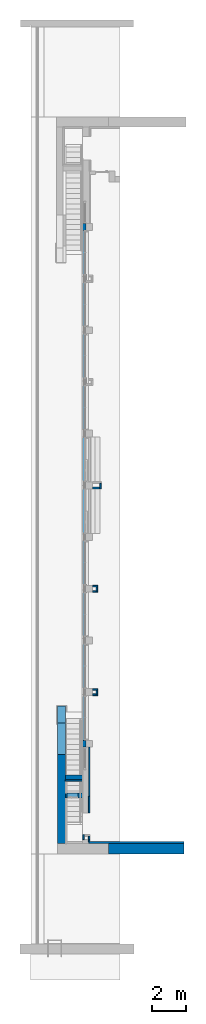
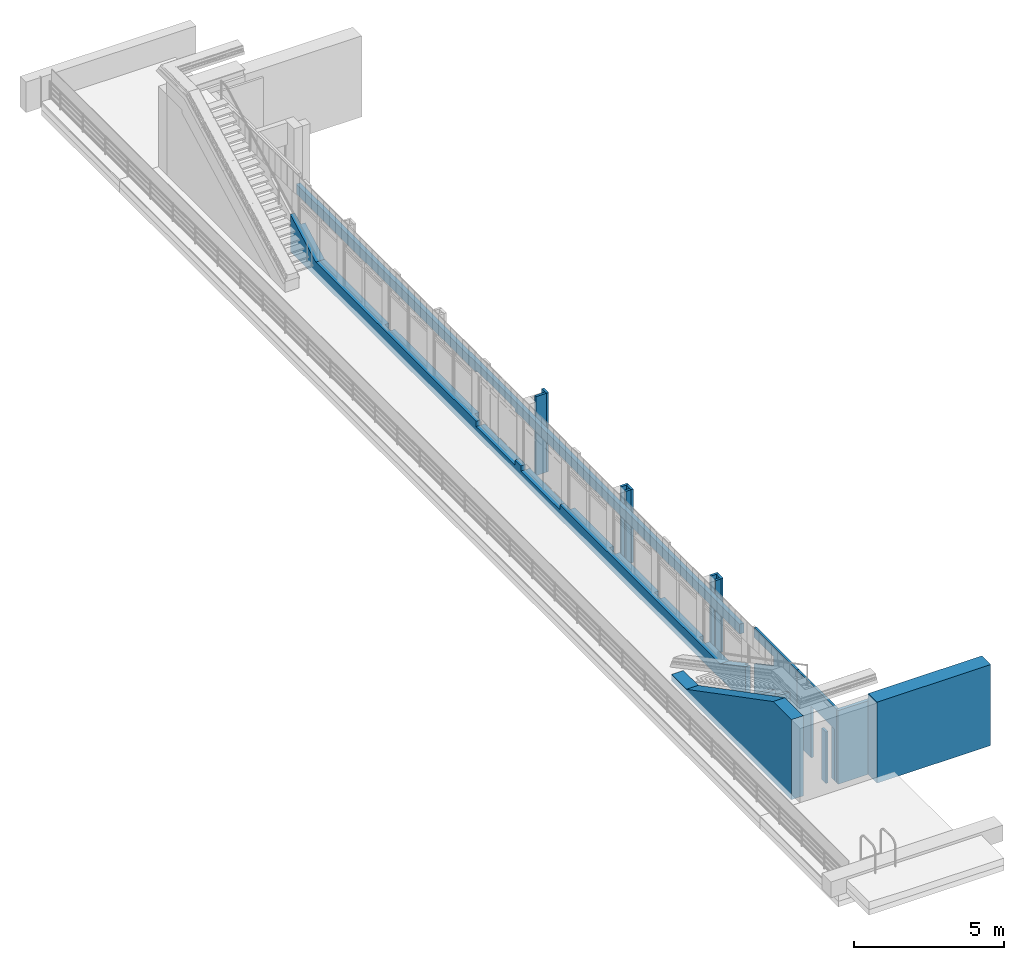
# One storey, part 7 of 16: 20 walls, 9 openings.
"""IFC2X3 building model written with IfcOpenShell, lengths in millimetres."""

from ifc_helpers import new_model, entity, si_unit, converted_unit, derived_unit, direction, frame, frame_2d, origin, place, context, subcontext, project, spatial, polyline, rectangle, outline, extrude, clip, halfspace, bounded_halfspace, material, layer, layer_set, layer_usage, type_object, element, save


model = new_model("IFC2X3")

# Units and contexts
model_context = context("Model", 3, precision=0.01, world=origin(), true_north=direction((6.123031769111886e-17, 1.0)))
body_context = subcontext(model_context, "Body", "Model", "MODEL_VIEW")
ifc_project = project(units=[si_unit("LENGTHUNIT", "METRE", prefix="MILLI"), si_unit("AREAUNIT", "SQUARE_METRE"), si_unit("VOLUMEUNIT", "CUBIC_METRE"), converted_unit("PLANEANGLEUNIT", "DEGREE", entity("IfcPlaneAngleMeasure", 0.017453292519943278), si_unit("PLANEANGLEUNIT", "RADIAN"), dimensions=[0, 0, 0, 0, 0, 0, 0]), si_unit("MASSUNIT", "GRAM", prefix="KILO"), derived_unit("MASSDENSITYUNIT", [(si_unit("MASSUNIT", "GRAM", prefix="KILO"), 1), (si_unit("LENGTHUNIT", "METRE"), -3)]), derived_unit("IONCONCENTRATIONUNIT", [(si_unit("MASSUNIT", "GRAM", prefix="KILO"), 1), (si_unit("LENGTHUNIT", "METRE"), -3)]), derived_unit("MOMENTOFINERTIAUNIT", [(si_unit("LENGTHUNIT", "METRE"), 4)]), si_unit("TIMEUNIT", "SECOND"), si_unit("FREQUENCYUNIT", "HERTZ"), si_unit("THERMODYNAMICTEMPERATUREUNIT", "DEGREE_CELSIUS"), derived_unit("THERMALTRANSMITTANCEUNIT", [(si_unit("MASSUNIT", "GRAM", prefix="KILO"), 1), (si_unit("THERMODYNAMICTEMPERATUREUNIT", "KELVIN"), -1), (si_unit("TIMEUNIT", "SECOND"), -3)]), derived_unit("THERMALCONDUCTANCEUNIT", [(si_unit("MASSUNIT", "GRAM", prefix="KILO"), 1), (si_unit("THERMODYNAMICTEMPERATUREUNIT", "KELVIN"), -1), (si_unit("TIMEUNIT", "SECOND"), -3), (si_unit("LENGTHUNIT", "METRE"), 1)]), derived_unit("VOLUMETRICFLOWRATEUNIT", [(si_unit("LENGTHUNIT", "METRE", prefix="DECI"), 3), (si_unit("TIMEUNIT", "SECOND"), -1)]), derived_unit("MASSFLOWRATEUNIT", [(si_unit("MASSUNIT", "GRAM", prefix="KILO"), 1), (si_unit("TIMEUNIT", "SECOND"), -1)]), derived_unit("ROTATIONALFREQUENCYUNIT", [(si_unit("TIMEUNIT", "SECOND"), -1)]), si_unit("ELECTRICCURRENTUNIT", "AMPERE"), si_unit("ELECTRICVOLTAGEUNIT", "VOLT"), si_unit("POWERUNIT", "WATT"), si_unit("FORCEUNIT", "NEWTON", prefix="KILO"), si_unit("ILLUMINANCEUNIT", "LUX"), si_unit("LUMINOUSFLUXUNIT", "LUMEN"), si_unit("LUMINOUSINTENSITYUNIT", "CANDELA"), si_unit("ENERGYUNIT", "JOULE"), derived_unit("USERDEFINED", [(si_unit("MASSUNIT", "GRAM", prefix="KILO"), -1), (si_unit("LENGTHUNIT", "METRE"), -2), (si_unit("TIMEUNIT", "SECOND"), 3), (si_unit("LUMINOUSFLUXUNIT", "LUMEN"), 1)]), derived_unit("USERDEFINED", [(si_unit("MASSUNIT", "GRAM", prefix="KILO"), 1), (si_unit("TIMEUNIT", "SECOND"), -3), (si_unit("LENGTHUNIT", "METRE"), 3), (si_unit("ELECTRICCURRENTUNIT", "AMPERE"), -2)]), derived_unit("SOUNDPOWERUNIT", [(si_unit("MASSUNIT", "GRAM", prefix="KILO"), 1), (si_unit("TIMEUNIT", "SECOND"), -3), (si_unit("LENGTHUNIT", "METRE"), 2)]), derived_unit("SOUNDPRESSUREUNIT", [(si_unit("MASSUNIT", "GRAM", prefix="KILO"), 1), (si_unit("LENGTHUNIT", "METRE"), -1), (si_unit("TIMEUNIT", "SECOND"), -2)]), derived_unit("LINEARVELOCITYUNIT", [(si_unit("LENGTHUNIT", "METRE"), 1), (si_unit("TIMEUNIT", "SECOND"), -1)]), si_unit("PRESSUREUNIT", "PASCAL"), derived_unit("USERDEFINED", [(si_unit("MASSUNIT", "GRAM", prefix="KILO"), 1), (si_unit("LENGTHUNIT", "METRE"), -2), (si_unit("TIMEUNIT", "SECOND"), -2)]), derived_unit("LINEARFORCEUNIT", [(si_unit("MASSUNIT", "GRAM", prefix="KILO"), 1), (si_unit("TIMEUNIT", "SECOND"), -2)]), derived_unit("PLANARFORCEUNIT", [(si_unit("MASSUNIT", "GRAM", prefix="KILO"), 1), (si_unit("LENGTHUNIT", "METRE"), -1), (si_unit("TIMEUNIT", "SECOND"), -2)]), derived_unit("SPECIFICHEATCAPACITYUNIT", [(si_unit("THERMODYNAMICTEMPERATUREUNIT", "KELVIN"), -1), (si_unit("LENGTHUNIT", "METRE"), 2), (si_unit("TIMEUNIT", "SECOND"), -2)]), derived_unit("HEATFLUXDENSITYUNIT", [(si_unit("MASSUNIT", "GRAM", prefix="KILO"), 1), (si_unit("TIMEUNIT", "SECOND"), -3)]), derived_unit("HEATINGVALUEUNIT", [(si_unit("LENGTHUNIT", "METRE"), 2), (si_unit("TIMEUNIT", "SECOND"), -2)]), derived_unit("VAPORPERMEABILITYUNIT", [(si_unit("LENGTHUNIT", "METRE"), -1), (si_unit("TIMEUNIT", "SECOND"), 1)]), derived_unit("DYNAMICVISCOSITYUNIT", [(si_unit("MASSUNIT", "GRAM", prefix="KILO"), 1), (si_unit("TIMEUNIT", "SECOND"), -1), (si_unit("LENGTHUNIT", "METRE"), -1)]), derived_unit("THERMALEXPANSIONCOEFFICIENTUNIT", [(si_unit("THERMODYNAMICTEMPERATUREUNIT", "KELVIN"), -1)]), derived_unit("MODULUSOFELASTICITYUNIT", [(si_unit("MASSUNIT", "GRAM", prefix="KILO"), 1), (si_unit("LENGTHUNIT", "METRE"), -1), (si_unit("TIMEUNIT", "SECOND"), -2)]), derived_unit("ISOTHERMALMOISTURECAPACITYUNIT", [(si_unit("MASSUNIT", "GRAM", prefix="KILO"), -1), (si_unit("LENGTHUNIT", "METRE"), 3)]), derived_unit("MOISTUREDIFFUSIVITYUNIT", [(si_unit("TIMEUNIT", "SECOND"), -1), (si_unit("LENGTHUNIT", "METRE"), 2)]), derived_unit("MASSPERLENGTHUNIT", [(si_unit("MASSUNIT", "GRAM", prefix="KILO"), 1), (si_unit("LENGTHUNIT", "METRE"), -1)]), derived_unit("THERMALRESISTANCEUNIT", [(si_unit("MASSUNIT", "GRAM", prefix="KILO"), -1), (si_unit("TIMEUNIT", "SECOND"), 3), (si_unit("THERMODYNAMICTEMPERATUREUNIT", "KELVIN"), 1)]), derived_unit("ACCELERATIONUNIT", [(si_unit("LENGTHUNIT", "METRE"), 1), (si_unit("TIMEUNIT", "SECOND"), -2)]), derived_unit("ANGULARVELOCITYUNIT", [(si_unit("TIMEUNIT", "SECOND"), -1), (si_unit("PLANEANGLEUNIT", "RADIAN"), 1)]), derived_unit("LINEARSTIFFNESSUNIT", [(si_unit("MASSUNIT", "GRAM", prefix="KILO"), 1), (si_unit("TIMEUNIT", "SECOND"), -2)]), derived_unit("WARPINGCONSTANTUNIT", [(si_unit("LENGTHUNIT", "METRE"), 6)]), derived_unit("LINEARMOMENTUNIT", [(si_unit("MASSUNIT", "GRAM", prefix="KILO"), 1), (si_unit("LENGTHUNIT", "METRE"), 1), (si_unit("TIMEUNIT", "SECOND"), -2)]), derived_unit("TORQUEUNIT", [(si_unit("MASSUNIT", "GRAM", prefix="KILO"), 1), (si_unit("LENGTHUNIT", "METRE"), 2), (si_unit("TIMEUNIT", "SECOND"), -2)])], contexts=[model_context])

# Site, building, storey
site_placement = place(None, origin())
site = spatial("IfcSite", under=ifc_project, at=site_placement, Name="Default", CompositionType="ELEMENT")
building_placement = place(site_placement, origin())
building = spatial("IfcBuilding", under=site, at=building_placement, Name="Eesti Rahvusraamatukogu hoone renoveerimise projekteerimistööd", CompositionType="ELEMENT")
storey_placement = place(building_placement, frame((0.0, 0.0, 8250.000000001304)))
storey = spatial("IfcBuildingStorey", under=building, at=storey_placement, Name="3. korrus", CompositionType="ELEMENT", Elevation=8250.000000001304)

# Wall
ifc_material_1 = material(Name="ol. olev materjal")
ifc_layer_1 = layer(ifc_material_1, 590.0)
ifc_layer_set_1 = layer_set([ifc_layer_1], Name="Basic Wall:ol. olev - 590mm")
ifc_layer_usage_1 = layer_usage(ifc_layer_set_1, "AXIS2", "POSITIVE", -295.0)
wall_type_1 = type_object("IfcWallType", Name="Basic Wall:ol. olev - 590mm", PredefinedType="STANDARD", material=ifc_layer_set_1)
wall_1_placement = place(storey_placement, frame((-32280.0, 6295.0, 0.0)))
element("IfcWallStandardCase", 1, at=wall_1_placement, inside=storey, type_object=wall_type_1, material=ifc_layer_usage_1, Name="Basic Wall:ol. olev - 590mm", ObjectType="Basic Wall:ol. olev - 590mm", context=body_context, shape_type="SweptSolid", body=[
    extrude(rectangle(XDim=4385.000000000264, YDim=590.0000000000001, at=frame_2d((2192.500000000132, -1.9895196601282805e-13), x_axis=(-1.0, 0.0))), origin(), (0.0, 0.0, 1.0), 3299.999999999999),
])

# Wall, opening
ifc_layer_2 = layer(ifc_material_1, 160.0)
ifc_layer_set_2 = layer_set([ifc_layer_2], Name="Basic Wall:ol. olev - 160mm")
ifc_layer_usage_2 = layer_usage(ifc_layer_set_2, "AXIS2", "NEGATIVE", 80.0)
wall_type_2 = type_object("IfcWallType", Name="Basic Wall:ol. olev - 160mm", PredefinedType="STANDARD", material=ifc_layer_set_2)
wall_2_placement = place(storey_placement, frame((-33690.0, 42190.0, 2600.0), z_axis=(0.0, 0.0, 1.0), x_axis=(0.0, -1.0, 0.0)))
wall_2 = element("IfcWallStandardCase", 2, at=wall_2_placement, inside=storey, type_object=wall_type_2, material=ifc_layer_usage_2, Name="Basic Wall:ol. olev - 160mm", ObjectType="Basic Wall:ol. olev - 160mm", context=body_context, shape_type="SweptSolid", body=[
    extrude(rectangle(XDim=29599.999999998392, YDim=159.99999999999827, at=frame_2d((14799.999999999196, 0.0), x_axis=(1.0, 0.0))), origin(), (0.0, 0.0, 1.0), 400.0000000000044),
])
opening_1_placement = place(wall_2_placement, frame((14600.0, -232.39999999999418, -2210.0)))
element("IfcOpeningElement", 3, at=opening_1_placement, cuts=wall_2, Name="Basic Wall:ol. olev - 160mm", ObjectType="Opening", context=body_context, shape_type="SweptSolid", body=[
    extrude(rectangle(XDim=2300.0000000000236, YDim=2599.99999999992, at=frame_2d((0.0, -5.684341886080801e-13), x_axis=(0.0, 1.0))), frame((-1300.0, 0.0, 1150.0), z_axis=(0.0, 1.0, 0.0), x_axis=(-1.0, 0.0, 0.0)), (0.0, 0.0, 1.0), 464.7999999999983),
])

ifc_layer_3 = layer(ifc_material_1, 300.0)
ifc_layer_set_3 = layer_set([ifc_layer_3], Name="Basic Wall:ol. olev - 300mm")
ifc_layer_usage_3 = layer_usage(ifc_layer_set_3, "AXIS2", "NEGATIVE", 150.0)
wall_type_3 = type_object("IfcWallType", Name="Basic Wall:ol. olev - 300mm", PredefinedType="STANDARD", material=ifc_layer_set_3)
wall_3_placement = place(storey_placement, frame((-34780.0, 9380.0, 0.0)))
wall_3 = element("IfcWallStandardCase", 4, at=wall_3_placement, inside=storey, type_object=wall_type_3, material=ifc_layer_usage_3, Name="Basic Wall:ol. olev - 300mm", ObjectType="Basic Wall:ol. olev - 300mm", context=body_context, shape_type="Clipping", body=[
    clip(extrude(rectangle(XDim=1010.0000000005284, YDim=300.00000000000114, at=frame_2d((505.0000000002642, -1.9895196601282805e-13), x_axis=(-1.0, 0.0))), origin(), (0.0, 0.0, 1.0), 2279.699977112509), bounded_halfspace(frame((0.0, -150.0, 2279.6999771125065), z_axis=(0.0, -0.46135273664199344, -0.8872168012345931), x_axis=(-1.0, 0.0, 0.0)), True, frame((0.0, -150.0, 2279.6999771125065)), polyline([(0.0, 0.0), (84.49999999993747, 0.0), (1010.0, 0.0), (1010.0, 300.0), (84.49999999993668, 300.0), (0.0, 300.0), (0.0, 0.0)]))),
])
opening_2_placement = place(wall_3_placement, frame((742.5000000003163, 150.0, 700.0)))
element("IfcOpeningElement", 5, at=opening_2_placement, cuts=wall_3, Name="SMA_D02, 2-poolne:ol. olev - 630x1020:1", ObjectType="Opening", context=body_context, shape_type="SweptSolid", body=[
    extrude(rectangle(XDim=1019.9999999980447, YDim=629.9999999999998, at=frame_2d((509.9999999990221, 314.9999999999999), x_axis=(1.0, 0.0))), frame((0.0, 0.0, 0.0), z_axis=(0.0, -1.0, 0.0), x_axis=(0.0, 0.0, 1.0)), (0.0, 0.0, 1.0), 300.0),
])

# Wall
ifc_layer_usage_4 = layer_usage(ifc_layer_set_3, "AXIS2", "NEGATIVE", 150.0)
wall_4_placement = place(storey_placement, frame((-34780.0, 10440.0, 0.0)))
element("IfcWallStandardCase", 6, at=wall_4_placement, inside=storey, type_object=wall_type_3, material=ifc_layer_usage_4, Name="Basic Wall:ol. olev - 300mm", ObjectType="Basic Wall:ol. olev - 300mm", context=body_context, shape_type="Clipping", body=[
    clip(extrude(rectangle(XDim=1010.0000000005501, YDim=300.00000000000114, at=frame_2d((505.00000000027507, 3.410605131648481e-13), x_axis=(-1.0, 0.0))), origin(), (0.0, 0.0, 1.0), 1728.4999771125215), bounded_halfspace(frame((0.0, -150.0, 1728.4999771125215), z_axis=(0.0, -0.46135273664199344, -0.8872168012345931), x_axis=(-1.0, 0.0, 0.0)), True, frame((0.0, -150.0, 1728.4999771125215)), polyline([(0.0, 0.0), (1010.0, 0.0), (1010.0, 300.0), (0.0, 300.0), (0.0, 0.0)]))),
])

# Wall, opening
ifc_layer_4 = layer(ifc_material_1, 460.0)
ifc_layer_set_4 = layer_set([ifc_layer_4], Name="Basic Wall:ol. olev - 460mm")
ifc_layer_usage_5 = layer_usage(ifc_layer_set_4, "AXIS2", "POSITIVE", -230.0)
wall_type_4 = type_object("IfcWallType", Name="Basic Wall:ol. olev - 460mm", PredefinedType="STANDARD", material=ifc_layer_set_4)
wall_5_placement = place(storey_placement, frame((-35010.0, 14595.0, 0.0), z_axis=(0.0, 0.0, 1.0), x_axis=(0.0, -1.0, 0.0)))
wall_5 = element("IfcWallStandardCase", 7, at=wall_5_placement, inside=storey, type_object=wall_type_4, material=ifc_layer_usage_5, Name="Basic Wall:ol. olev - 460mm", ObjectType="Basic Wall:ol. olev - 460mm", context=body_context, shape_type="Clipping", body=[
    clip(extrude(rectangle(XDim=8004.999999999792, YDim=459.9999999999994, at=frame_2d((4002.499999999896, 8.242295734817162e-13), x_axis=(-1.0, 0.0))), origin(), (0.0, 0.0, 1.0), 3266.521876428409), halfspace(frame((6785.875865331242, -230.0, 3266.521876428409), z_axis=(0.0, 0.0, 1.0), x_axis=(0.0, 1.0, 0.0)), False)),
])
opening_3_placement = place(wall_5_placement, origin())
element("IfcOpeningElement", 8, at=opening_3_placement, cuts=wall_5, Name="Basic Wall:ol. olev - 460mm", ObjectType="Opening", context=body_context, shape_type="SweptSolid", body=[
    extrude(outline(polyline([(-4838.3811424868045, -1503.2609382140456), (1947.494722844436, -1503.2609382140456), (1947.494722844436, 1503.2609382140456), (943.3916967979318, 1503.2609382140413), (-4838.3811424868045, -1503.2609382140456)])), frame((1947.4947228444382, 230.0, 1763.2609382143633), z_axis=(0.0, -1.0, 0.0), x_axis=(-1.0, 0.0, 0.0)), (0.0, 0.0, 1.0), 460.0),
])

# Wall
ifc_material_2 = material(Name="EST. Soojustus.PIR_Powerwall Pro")
ifc_layer_5 = layer(ifc_material_2, 30.0)
ifc_material_3 = material(Name="EST. Metall. Alumiinium. Mütsprofiil.")
ifc_layer_6 = layer(ifc_material_3, 42.0)
ifc_material_4 = material(Name="EST. Ehitusplaat. Kipsplaat")
ifc_layer_7 = layer(ifc_material_4, 12.5)
ifc_layer_set_5 = layer_set([ifc_layer_5, ifc_layer_6, ifc_layer_7], Name="Basic Wall:VS-03.1 - soojustus")
ifc_layer_usage_6 = layer_usage(ifc_layer_set_5, "AXIS2", "POSITIVE", -42.25000000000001)
wall_type_5 = type_object("IfcWallType", Name="Basic Wall:VS-03.1 - soojustus", PredefinedType="STANDARD", material=ifc_layer_set_5)
wall_6_placement = place(storey_placement, frame((-33770.0, 10247.750000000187, 0.0), z_axis=(0.0, 0.0, 1.0), x_axis=(-1.0, 0.0, 0.0)))
element("IfcWallStandardCase", 9, at=wall_6_placement, inside=storey, type_object=wall_type_5, material=ifc_layer_usage_6, Name="Basic Wall:VS-03.1 - soojustus", ObjectType="Basic Wall:VS-03.1 - soojustus", context=body_context, shape_type="Clipping", body=[
    clip(extrude(rectangle(XDim=1010.0000000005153, YDim=84.49999999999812, at=frame_2d((505.00000000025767, 2.0961010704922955e-13), x_axis=(-1.0, 0.0))), origin(), (0.0, 0.0, 1.0), 1772.439977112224), bounded_halfspace(frame((0.0, -42.25000000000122, 1728.4999771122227), z_axis=(0.0, 0.46135273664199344, -0.8872168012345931), x_axis=(1.0, 0.0, 0.0)), True, frame((0.0, -42.25000000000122, 1728.4999771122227)), polyline([(0.0, 0.0), (1010.0, 0.0), (1010.0, 84.50000000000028), (925.500000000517, 84.50000000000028), (0.0, 84.50000000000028), (0.0, 0.0)]))),
])

# Wall, openings
ifc_layer_usage_7 = layer_usage(ifc_layer_set_5, "AXIS2", "POSITIVE", -42.25000000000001)
wall_7_placement = place(storey_placement, frame((-33397.74999999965, 12190.0, 0.0), z_axis=(0.0, 0.0, 1.0), x_axis=(0.0, -1.0, 0.0)))
wall_7 = element("IfcWallStandardCase", 10, at=wall_7_placement, inside=storey, type_object=wall_type_5, material=ifc_layer_usage_7, Name="Basic Wall:VS-03.1 - soojustus", ObjectType="Basic Wall:VS-03.1 - soojustus", context=body_context, shape_type="SweptSolid", body=[
    extrude(rectangle(XDim=2859.996050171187, YDim=84.49999999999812, at=frame_2d((1429.9980250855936, 8.348877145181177e-13), x_axis=(-1.0, 0.0))), origin(), (0.0, 0.0, 1.0), 3000.0000000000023),
])
opening_4_placement = place(wall_7_placement, frame((1300.0, -194.64999999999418, 1515.3846153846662)))
element("IfcOpeningElement", 11, at=opening_4_placement, cuts=wall_7, Name="Basic Wall:VS-03.1 - soojustus", ObjectType="Opening", context=body_context, shape_type="SweptSolid", body=[
    extrude(outline(polyline([(-717.307692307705, -650.0), (367.3076923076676, -650.0), (367.3076923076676, 650.0), (-17.307692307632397, 650.0), (-717.307692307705, -650.0)])), frame((-650.0, 0.0, 717.307692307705), z_axis=(0.0, 1.0, 0.0), x_axis=(0.0, 0.0, 1.0)), (0.0, 0.0, 1.0), 389.29999999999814),
])
opening_5_placement = place(wall_7_placement, frame((12190.0, 33397.74999999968, 0.0)))
element("IfcOpeningElement", 12, at=opening_5_placement, cuts=wall_7, Name="Basic Wall:VS-03.1 - soojustus", ObjectType="Opening", context=body_context, shape_type="SweptSolid", body=[
    extrude(rectangle(XDim=2100.0, YDim=1549.9999999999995, at=frame_2d((5.684341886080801e-13, -5.684341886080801e-13), x_axis=(0.0, 1.0))), frame((-7605.0, -35294.0, 1050.0), z_axis=(0.0, 1.0, 0.0), x_axis=(1.0, 0.0, 0.0)), (0.0, 0.0, 1.0), 3048.0),
])

ifc_layer_usage_8 = layer_usage(ifc_layer_set_5, "AXIS2", "POSITIVE", -42.25000000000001)
wall_8_placement = place(storey_placement, frame((-33397.749999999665, 9330.003949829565, 0.0), z_axis=(0.0, 0.0, 1.0), x_axis=(0.0, -1.0, 0.0)))
wall_8 = element("IfcWallStandardCase", 13, at=wall_8_placement, inside=storey, type_object=wall_type_5, material=ifc_layer_usage_8, Name="Basic Wall:VS-03.1 - soojustus", ObjectType="Basic Wall:VS-03.1 - soojustus", context=body_context, shape_type="SweptSolid", body=[
    extrude(rectangle(XDim=2630.0039498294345, YDim=84.49999999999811, at=frame_2d((1315.0019749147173, 0.0), x_axis=(1.0, 0.0))), origin(), (0.0, 0.0, 1.0), 3000.0000000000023),
])
opening_6_placement = place(wall_8_placement, frame((9330.003949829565, 33397.749999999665, 0.0)))
element("IfcOpeningElement", 14, at=opening_6_placement, cuts=wall_8, Name="Basic Wall:VS-03.1 - soojustus", ObjectType="Opening", context=body_context, shape_type="SweptSolid", body=[
    extrude(rectangle(XDim=2100.0, YDim=1549.9999999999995, at=frame_2d((5.684341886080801e-13, -5.684341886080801e-13), x_axis=(0.0, 1.0))), frame((-7605.0, -35294.0, 1050.0), z_axis=(0.0, 1.0, 0.0), x_axis=(1.0, 0.0, 0.0)), (0.0, 0.0, 1.0), 3048.0),
])
opening_7_placement = place(wall_8_placement, frame((-1559.996050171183, -194.64999999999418, 1515.3846153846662)))
element("IfcOpeningElement", 15, at=opening_7_placement, cuts=wall_8, Name="Basic Wall:VS-03.1 - soojustus", ObjectType="Opening", context=body_context, shape_type="SweptSolid", body=[
    extrude(outline(polyline([(-717.307692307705, -650.0), (367.3076923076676, -650.0), (367.3076923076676, 650.0), (-17.307692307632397, 650.0), (-717.307692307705, -650.0)])), frame((-650.0, 0.0, 717.307692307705), z_axis=(0.0, 1.0, 0.0), x_axis=(0.0, 0.0, 1.0)), (0.0, 0.0, 1.0), 389.29999999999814),
])

# Walls
ifc_layer_usage_9 = layer_usage(ifc_layer_set_5, "AXIS2", "POSITIVE", -42.25000000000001)
wall_9_placement = place(storey_placement, frame((-33397.749999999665, 7025.499999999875, 0.0), z_axis=(0.0, 0.0, 1.0), x_axis=(0.0, -1.0, 0.0)))
element("IfcWallStandardCase", 16, at=wall_9_placement, inside=storey, type_object=wall_type_5, material=ifc_layer_usage_9, Name="Basic Wall:VS-03.1 - soojustus", ObjectType="Basic Wall:VS-03.1 - soojustus", context=body_context, shape_type="SweptSolid", body=[
    extrude(rectangle(XDim=195.49999999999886, YDim=84.49999999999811, at=frame_2d((97.74999999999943, 0.0), x_axis=(-1.0, 0.0))), origin(), (0.0, 0.0, 1.0), 2099.999999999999),
])
ifc_layer_usage_10 = layer_usage(ifc_layer_set_5, "AXIS2", "NEGATIVE", 42.25000000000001)
wall_10_placement = place(storey_placement, frame((-33727.749999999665, 7110.0, 0.0), z_axis=(0.0, 0.0, 1.0), x_axis=(0.0, -1.0, 0.0)))
element("IfcWallStandardCase", 17, at=wall_10_placement, inside=storey, type_object=wall_type_5, material=ifc_layer_usage_10, Name="Basic Wall:VS-03.1 - soojustus", ObjectType="Basic Wall:VS-03.1 - soojustus", context=body_context, shape_type="SweptSolid", body=[
    extrude(rectangle(XDim=279.99999999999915, YDim=84.49999999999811, at=frame_2d((139.99999999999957, 0.0), x_axis=(-1.0, 0.0))), origin(), (0.0, 0.0, 1.0), 2099.999999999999),
])
ifc_layer_8 = layer(ifc_material_4, 15.0)
ifc_material_5 = material(Name="EST. Ehitusplaat. OSB")
ifc_layer_9 = layer(ifc_material_5, 15.0)
ifc_material_6 = material(Name="EST. Õhkvahe. Roov. Kipsplaadi alusroov.Puit. Vertikaalne")
ifc_layer_10 = layer(ifc_material_6, 25.0)
ifc_material_7 = material(Name="EST. Soojustus.PIR. Default")
ifc_layer_11 = layer(ifc_material_7, 70.0)
ifc_layer_set_6 = layer_set([ifc_layer_8, ifc_layer_9, ifc_layer_10, ifc_layer_11], Name="Basic Wall:VS-02 - 125 sooj. läbiv")
ifc_layer_usage_11 = layer_usage(ifc_layer_set_6, "AXIS2", "NEGATIVE", 62.499999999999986)
wall_type_6 = type_object("IfcWallType", Name="Basic Wall:VS-02 - 125 sooj. läbiv", PredefinedType="STANDARD", material=ifc_layer_set_6)
wall_11_placement = place(storey_placement, frame((-33440.0, 6652.50000000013, 0.0)))
element("IfcWallStandardCase", 18, at=wall_11_placement, inside=storey, type_object=wall_type_6, material=ifc_layer_usage_11, Name="Basic Wall:VS-02 - 125 sooj. läbiv", ObjectType="Basic Wall:VS-02 - 125 sooj. läbiv", context=body_context, shape_type="SweptSolid", body=[
    extrude(rectangle(XDim=5545.000000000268, YDim=124.99999999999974, at=frame_2d((2772.500000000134, -7.105427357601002e-15), x_axis=(-1.0, 0.0))), origin(), (0.0, 0.0, 1.0), 3000.0000000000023),
])

# Wall, openings
ifc_material_8 = material(Name="EST. Metall. Alumiinium. Fassaadikate. Värvitud. RAL0000")
ifc_layer_12 = layer(ifc_material_8, 5.0)
ifc_material_9 = material(Name="EST. Õhkvahe. Roov. Fassaadikatte alusroov. Horisontaalne")
ifc_layer_13 = layer(ifc_material_9, 40.0)
ifc_material_10 = material(Name="EST. Müüritis. Väikeplokk. bauroc UNIVERSAL")
ifc_layer_14 = layer(ifc_material_10, 300.0)
ifc_layer_set_7 = layer_set([ifc_layer_12, ifc_layer_13, ifc_layer_14], Name="Basic Wall:VS-22 - 340 akende all")
ifc_layer_usage_12 = layer_usage(ifc_layer_set_7, "AXIS2", "POSITIVE", -172.5)
wall_type_7 = type_object("IfcWallType", Name="Basic Wall:VS-22 - 340 akende all", PredefinedType="STANDARD", material=ifc_layer_set_7)
wall_12_placement = place(storey_placement, frame((-33597.49999999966, 42590.0, 0.0), z_axis=(0.0, 0.0, 1.0), x_axis=(0.0, -1.0, 0.0)))
solid = clip(clip(clip(clip(clip(clip(clip(clip(extrude(rectangle(XDim=30399.999999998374, YDim=344.99999999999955, at=frame_2d((15199.999999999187, 0.0), x_axis=(-1.0, 0.0))), origin(), (0.0, 0.0, 1.0), 1515.3846153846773), bounded_halfspace(frame((400.0, 7.50000000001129, 1300.0), z_axis=(0.0, -1.0, 0.0), x_axis=(0.0, 0.0, -1.0)), True, frame((400.0, 7.50000000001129, 1300.0), z_axis=(0.0, -1.0, 0.0), x_axis=(0.0, 0.0, -1.0)), polyline([(0.0, 0.0), (-215.38461538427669, -400.0), (1300.0, -400.0), (1300.0, 0.0), (0.0, 0.0)]))), bounded_halfspace(frame((400.0, 7.50000000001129, 0.0), z_axis=(1.0, 0.0, 0.0), x_axis=(0.0, 0.0, -1.0)), True, frame((400.0, 7.50000000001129, 0.0), z_axis=(1.0, 0.0, 0.0), x_axis=(0.0, 0.0, -1.0)), polyline([(0.0, 0.0), (0.0, 165.0), (-1300.0, 165.0), (-1300.0, 20.0), (-1300.0, 0.0), (0.0, 0.0)]))), bounded_halfspace(frame((30000.0, 7.499999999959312, 1300.0), z_axis=(-1.0, 0.0, 0.0), x_axis=(0.0, 0.0, -1.0)), True, frame((30000.0, 7.499999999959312, 1300.0), z_axis=(-1.0, 0.0, 0.0), x_axis=(0.0, 0.0, -1.0)), polyline([(0.0, 0.0), (0.0, -20.0), (0.0, -165.0), (1300.0, -165.0), (1300.0, 0.0), (0.0, 0.0)]))), bounded_halfspace(frame((30000.0, 7.499999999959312, 0.0), z_axis=(0.0, -1.0, 0.0), x_axis=(0.0, 0.0, -1.0)), True, frame((30000.0, 7.499999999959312, 0.0), z_axis=(0.0, -1.0, 0.0), x_axis=(0.0, 0.0, -1.0)), polyline([(0.0, 0.0), (0.0, 400.0), (-1515.3846153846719, 400.0), (-1300.0, 0.0), (0.0, 0.0)]))), bounded_halfspace(frame((27000.0, 7.499999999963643, 0.0), z_axis=(0.0, -1.0, 0.0), x_axis=(0.0, 0.0, -1.0)), True, frame((27000.0, 7.499999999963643, 0.0), z_axis=(0.0, -1.0, 0.0), x_axis=(0.0, 0.0, -1.0)), polyline([(0.0, 0.0), (0.0, 400.0), (-600.0, 400.0), (-600.0, 0.0), (0.0, 0.0)]))), bounded_halfspace(frame((24000.0, 7.499999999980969, 0.0), z_axis=(0.0, -1.0, 0.0), x_axis=(0.0, 0.0, -1.0)), True, frame((24000.0, 7.499999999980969, 0.0), z_axis=(0.0, -1.0, 0.0), x_axis=(0.0, 0.0, -1.0)), polyline([(0.0, 0.0), (0.0, 400.0), (-600.0, 400.0), (-600.0, 0.0), (0.0, 0.0)]))), bounded_halfspace(frame((21000.0, 7.499999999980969, 0.0), z_axis=(0.0, -1.0, 0.0), x_axis=(0.0, 0.0, -1.0)), True, frame((21000.0, 7.499999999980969, 0.0), z_axis=(0.0, -1.0, 0.0), x_axis=(0.0, 0.0, -1.0)), polyline([(0.0, 0.0), (0.0, 400.0), (-600.0, 400.0), (-600.0, 0.0), (0.0, 0.0)]))), bounded_halfspace(frame((18400.0, 7.499999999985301, 600.0), z_axis=(0.0, -1.0, 0.0), x_axis=(0.0, 0.0, -1.0)), True, frame((18400.0, 7.499999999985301, 600.0), z_axis=(0.0, -1.0, 0.0), x_axis=(0.0, 0.0, -1.0)), polyline([(0.0, 0.0), (0.0, -400.0), (210.0, -400.0), (600.0, -400.0), (600.0, 0.0), (0.0, 0.0)])))
wall_12 = element("IfcWallStandardCase", 19, at=wall_12_placement, inside=storey, type_object=wall_type_7, material=ifc_layer_usage_12, Name="Basic Wall:VS-22 - 340 akende all", ObjectType="Basic Wall:VS-22 - 340 akende all", context=body_context, shape_type="Clipping", body=[
    clip(clip(clip(solid, bounded_halfspace(frame((15000.0, 7.499999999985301, 0.0), z_axis=(0.0, -1.0, 0.0), x_axis=(0.0, 0.0, -1.0)), True, frame((15000.0, 7.499999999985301, 0.0), z_axis=(0.0, -1.0, 0.0), x_axis=(0.0, 0.0, -1.0)), polyline([(0.0, 0.0), (0.0, 400.0), (-390.0, 400.0), (-600.0, 400.0), (-600.0, 0.0), (-390.0, 0.0), (0.0, 0.0)]))), bounded_halfspace(frame((12400.0, 7.499999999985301, 390.0), z_axis=(0.0, -1.0, 0.0), x_axis=(0.0, 0.0, -1.0)), True, frame((12400.0, 7.499999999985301, 390.0), z_axis=(0.0, -1.0, 0.0), x_axis=(0.0, 0.0, -1.0)), polyline([(0.0, 0.0), (-210.0, 0.0), (-210.0, -400.0), (390.0, -400.0), (390.0, 0.0), (0.0, 0.0)]))), bounded_halfspace(frame((6000.0, 7.500000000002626, 0.0), z_axis=(0.0, -1.0, 0.0), x_axis=(0.0, 0.0, -1.0)), True, frame((6000.0, 7.500000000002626, 0.0), z_axis=(0.0, -1.0, 0.0), x_axis=(0.0, 0.0, -1.0)), polyline([(0.0, 0.0), (0.0, 400.0), (-600.0, 400.0), (-600.0, 0.0), (0.0, 0.0)]))),
])
opening_8_placement = place(wall_12_placement, frame((15000.0, -324.90000000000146, 390.0)))
element("IfcOpeningElement", 20, at=opening_8_placement, cuts=wall_12, Name="Basic Wall:VS-22 - 340 akende all", ObjectType="Opening", context=body_context, shape_type="SweptSolid", body=[
    extrude(rectangle(XDim=2300.0000000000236, YDim=2599.99999999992, at=frame_2d((0.0, -5.684341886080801e-13), x_axis=(0.0, 1.0))), frame((-1300.0, 0.0, 1150.0), z_axis=(0.0, 1.0, 0.0), x_axis=(-1.0, 0.0, 0.0)), (0.0, 0.0, 1.0), 649.7999999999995),
])
opening_9_placement = place(wall_12_placement, origin())
element("IfcOpeningElement", 21, at=opening_9_placement, cuts=wall_12, Name="Basic Wall:VS-22 - 340 akende all", ObjectType="Opening", context=body_context, shape_type="SweptSolid", body=[
    extrude(outline(polyline([(-14450.0, -739.0384615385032), (15950.0, -739.0384615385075), (14250.0, 176.34615384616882), (550.0, 176.34615384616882), (550.0, 386.3461538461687), (-2050.0, 386.3461538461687), (-2050.0, 176.34615384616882), (-12750.0, 176.3461538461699), (-14450.0, -739.0384615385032)])), frame((15950.0, 172.49999999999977, 776.34615384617), z_axis=(0.0, -1.0, 0.0), x_axis=(-1.0, 0.0, 0.0)), (0.0, 0.0, 1.0), 345.0),
])

# Walls
ifc_layer_15 = layer(ifc_material_4, 12.5)
ifc_layer_16 = layer(ifc_material_5, 12.0)
ifc_material_11 = material(Name="EST. Roov. Kipsplaadi alusroov.Mineraalvillaga. Vertikaalne")
ifc_layer_17 = layer(ifc_material_11, 66.0)
ifc_layer_set_8 = layer_set([ifc_layer_15, ifc_layer_16, ifc_layer_17], Name="Basic Wall:SS-50.1 - 115 kergsein 38db ühepoolne")
ifc_layer_usage_13 = layer_usage(ifc_layer_set_8, "AXIS2", "NEGATIVE", 45.25)
wall_type_8 = type_object("IfcWallType", Name="Basic Wall:SS-50.1 - 115 kergsein 38db ühepoolne", PredefinedType="STANDARD", material=ifc_layer_set_8)
wall_13_placement = place(storey_placement, frame((-32744.74999999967, 27499.499999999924, 0.0), z_axis=(0.0, 0.0, 1.0), x_axis=(0.0, -1.0, 0.0)))
element("IfcWallStandardCase", 22, at=wall_13_placement, inside=storey, type_object=wall_type_8, material=ifc_layer_usage_13, Name="Basic Wall:SS-50.1 - 115 kergsein 38db ühepoolne", ObjectType="Basic Wall:SS-50.1 - 115 kergsein 38db ühepoolne", context=body_context, shape_type="Clipping", body=[
    clip(extrude(rectangle(XDim=309.49999999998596, YDim=90.49999999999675, at=frame_2d((154.74999999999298, 0.0), x_axis=(-1.0, 0.0))), origin(), (0.0, 0.0, 1.0), 3220.0), bounded_halfspace(frame((0.0, -45.25000000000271, 3220.0), z_axis=(0.0, 0.0, 1.0), x_axis=(0.0, 1.0, 0.0)), False, frame((0.0, -45.25000000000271, 3220.0)), polyline([(0.0, 0.0), (219.0, 0.0), (309.49999999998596, 0.0), (309.49999999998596, 90.50000000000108), (0.0, 90.50000000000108), (0.0, 0.0)]))),
])
ifc_layer_usage_14 = layer_usage(ifc_layer_set_8, "AXIS2", "NEGATIVE", 45.25)
wall_14_placement = place(storey_placement, frame((-32790.0, 27235.249999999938, 0.0), z_axis=(0.0, 0.0, 1.0), x_axis=(-1.0, 0.0, 0.0)))
element("IfcWallStandardCase", 23, at=wall_14_placement, inside=storey, type_object=wall_type_8, material=ifc_layer_usage_14, Name="Basic Wall:SS-50.1 - 115 kergsein 38db ühepoolne", ObjectType="Basic Wall:SS-50.1 - 115 kergsein 38db ühepoolne", context=body_context, shape_type="Clipping", body=[
    clip(extrude(rectangle(XDim=400.0000000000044, YDim=90.49999999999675, at=frame_2d((200.0000000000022, 0.0), x_axis=(-1.0, 0.0))), origin(), (0.0, 0.0, 1.0), 3220.0), bounded_halfspace(frame((0.0, -45.25000000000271, 3220.0), z_axis=(0.0, 0.0, 1.0), x_axis=(-1.0, 0.0, 0.0)), False, frame((0.0, -45.25000000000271, 3220.0)), polyline([(0.0, 0.0), (400.0, 0.0), (400.0, 90.50000000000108), (0.0, 90.50000000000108), (0.0, 0.0)]))),
])
ifc_layer_usage_15 = layer_usage(ifc_layer_set_8, "AXIS2", "NEGATIVE", 45.25)
wall_15_placement = place(storey_placement, frame((-33190.0, 15544.749999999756, 0.0)))
element("IfcWallStandardCase", 24, at=wall_15_placement, inside=storey, type_object=wall_type_8, material=ifc_layer_usage_15, Name="Basic Wall:SS-50.1 - 115 kergsein 38db ühepoolne", ObjectType="Basic Wall:SS-50.1 - 115 kergsein 38db ühepoolne", context=body_context, shape_type="SweptSolid", body=[
    extrude(rectangle(XDim=290.50000000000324, YDim=90.50000000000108, at=frame_2d((145.25000000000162, 1.1013412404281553e-13), x_axis=(-1.0, 0.0))), origin(), (0.0, 0.0, 1.0), 3000.0000000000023),
])
ifc_layer_usage_16 = layer_usage(ifc_layer_set_8, "AXIS2", "NEGATIVE", 45.25)
wall_16_placement = place(storey_placement, frame((-32944.74999999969, 15499.499999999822, 0.0), z_axis=(0.0, 0.0, 1.0), x_axis=(0.0, -1.0, 0.0)))
element("IfcWallStandardCase", 25, at=wall_16_placement, inside=storey, type_object=wall_type_8, material=ifc_layer_usage_16, Name="Basic Wall:SS-50.1 - 115 kergsein 38db ühepoolne", ObjectType="Basic Wall:SS-50.1 - 115 kergsein 38db ühepoolne", context=body_context, shape_type="SweptSolid", body=[
    extrude(rectangle(XDim=309.49999999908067, YDim=90.49999999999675, at=frame_2d((154.74999999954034, 0.0), x_axis=(-1.0, 0.0))), origin(), (0.0, 0.0, 1.0), 3000.0000000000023),
])
ifc_layer_usage_17 = layer_usage(ifc_layer_set_8, "AXIS2", "NEGATIVE", 45.25)
wall_17_placement = place(storey_placement, frame((-32990.0, 15235.250000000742, 0.0), z_axis=(0.0, 0.0, 1.0), x_axis=(-1.0, 0.0, 0.0)))
element("IfcWallStandardCase", 26, at=wall_17_placement, inside=storey, type_object=wall_type_8, material=ifc_layer_usage_17, Name="Basic Wall:SS-50.1 - 115 kergsein 38db ühepoolne", ObjectType="Basic Wall:SS-50.1 - 115 kergsein 38db ühepoolne", context=body_context, shape_type="SweptSolid", body=[
    extrude(rectangle(XDim=200.0000000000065, YDim=90.50000000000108, at=frame_2d((100.00000000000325, 0.0), x_axis=(-1.0, 0.0))), origin(), (0.0, 0.0, 1.0), 3000.0000000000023),
])
ifc_layer_usage_18 = layer_usage(ifc_layer_set_8, "AXIS2", "NEGATIVE", 45.25)
wall_18_placement = place(storey_placement, frame((-33190.0, 21544.749999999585, 0.0)))
element("IfcWallStandardCase", 27, at=wall_18_placement, inside=storey, type_object=wall_type_8, material=ifc_layer_usage_18, Name="Basic Wall:SS-50.1 - 115 kergsein 38db ühepoolne", ObjectType="Basic Wall:SS-50.1 - 115 kergsein 38db ühepoolne", context=body_context, shape_type="SweptSolid", body=[
    extrude(rectangle(XDim=290.4999999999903, YDim=90.49999999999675, at=frame_2d((145.24999999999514, 2.6645352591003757e-13), x_axis=(-1.0, 0.0))), origin(), (0.0, 0.0, 1.0), 3000.0000000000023),
])
ifc_layer_usage_19 = layer_usage(ifc_layer_set_8, "AXIS2", "NEGATIVE", 45.25)
wall_19_placement = place(storey_placement, frame((-32944.74999999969, 21499.499999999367, 0.0), z_axis=(0.0, 0.0, 1.0), x_axis=(0.0, -1.0, 0.0)))
element("IfcWallStandardCase", 28, at=wall_19_placement, inside=storey, type_object=wall_type_8, material=ifc_layer_usage_19, Name="Basic Wall:SS-50.1 - 115 kergsein 38db ühepoolne", ObjectType="Basic Wall:SS-50.1 - 115 kergsein 38db ühepoolne", context=body_context, shape_type="SweptSolid", body=[
    extrude(rectangle(XDim=309.4999999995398, YDim=90.49999999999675, at=frame_2d((154.7499999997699, 0.0), x_axis=(-1.0, 0.0))), origin(), (0.0, 0.0, 1.0), 3000.0000000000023),
])
ifc_layer_usage_20 = layer_usage(ifc_layer_set_8, "AXIS2", "NEGATIVE", 45.25)
wall_20_placement = place(storey_placement, frame((-32990.0, 21235.249999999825, 0.0), z_axis=(0.0, 0.0, 1.0), x_axis=(-1.0, 0.0, 0.0)))
element("IfcWallStandardCase", 29, at=wall_20_placement, inside=storey, type_object=wall_type_8, material=ifc_layer_usage_20, Name="Basic Wall:SS-50.1 - 115 kergsein 38db ühepoolne", ObjectType="Basic Wall:SS-50.1 - 115 kergsein 38db ühepoolne", context=body_context, shape_type="SweptSolid", body=[
    extrude(rectangle(XDim=199.99999999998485, YDim=90.49999999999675, at=frame_2d((99.99999999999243, 0.0), x_axis=(-1.0, 0.0))), origin(), (0.0, 0.0, 1.0), 3000.0000000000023),
])

save(model, "model.ifc")
